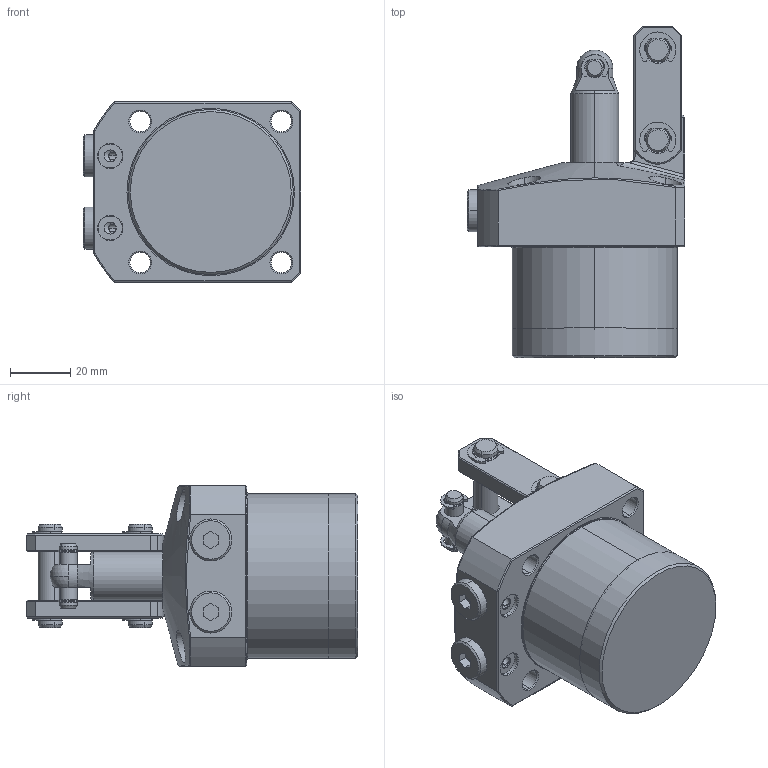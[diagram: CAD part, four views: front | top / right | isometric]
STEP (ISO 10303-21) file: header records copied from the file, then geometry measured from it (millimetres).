
FILE_DESCRIPTION(/* description */ (''),/* implementation_level */ '2;1');
FILE_NAME(/* name */ 'KTPC55-F.stp',/* time_stamp */ '2022-11-18T14:58:22+08:00',/* author */ (''),/* organization */ (''),/* preprocessor_version */ 'ST-DEVELOPER v16.7',/* originating_system */ 'SIEMENS PLM Software NX 12.0',/* authorisation */ '');
FILE_SCHEMA (('AP203_CONFIGURATION_CONTROLLED_3D_DESIGN_OF_MECHANICAL_PARTS_AND_ASSEMBLIES_MIM_LF { 1 0 10303 403 2 1 2}'));
Length unit declared in the file: millimetre
Products named in the file (10): KTPC55-F-02; KTPC55-F-03; KTPC55-F-01; KTPC55-F-06; KTPC55-F-08; KTPC55-F-04; KTPC55-F-09; KTPC55-F-07; KTPC55-F-05; LKA0550-CC_step
Assembly tree (16 placements, depth 2):
  LKA0550-CC_step
    KTPC55-F-05  x2
    KTPC55-F-07
    KTPC55-F-09  x4
    KTPC55-F-04  x2
    KTPC55-F-08  x2
    KTPC55-F-06  x2
    KTPC55-F-01
    KTPC55-F-03
    KTPC55-F-02
Bounding box: 72.5 x 110.5 x 60 mm (x, y, z)
Volume: 268017.2 mm3; surface area: 44493 mm2
Topology: 16 solids, 16 shells, 564 faces, 1360 edges, 850 vertices
Faces by surface type: cylinder 236, plane 175, cone 74, torus 60, bspline 17, sphere 2
Full cylindrical faces by diameter (mm): 55 x1
Entity records: 12727 total; most frequent: CARTESIAN_POINT 3101, DIRECTION 1820, ORIENTED_EDGE 1680, EDGE_CURVE 840, AXIS2_PLACEMENT_3D 739, VERTEX_POINT 520, EDGE_LOOP 396, CIRCLE 382
